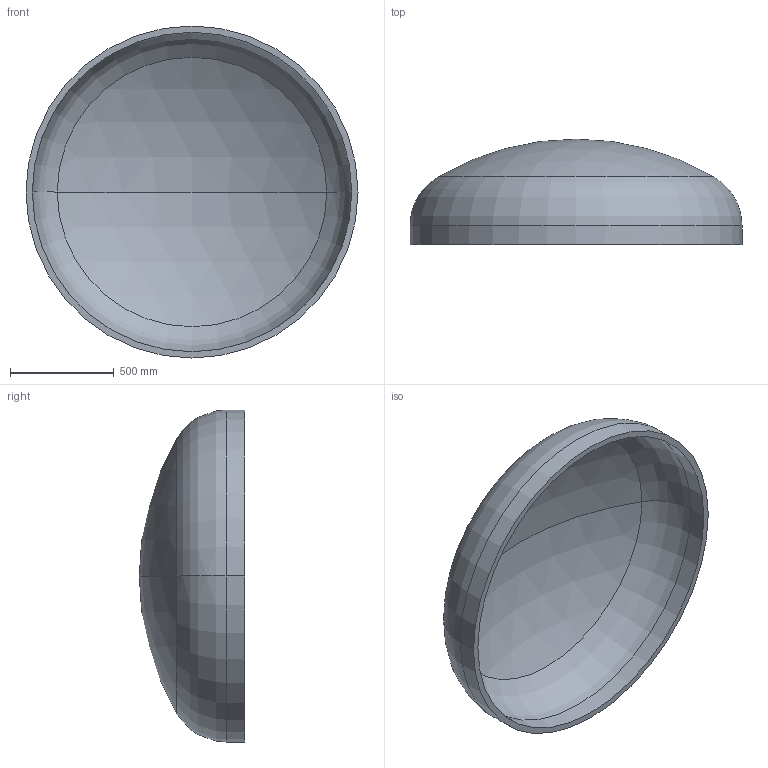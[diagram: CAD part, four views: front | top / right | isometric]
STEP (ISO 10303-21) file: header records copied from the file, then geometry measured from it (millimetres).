
FILE_DESCRIPTION (( 'STEP AP203' ), '1' );
FILE_NAME ('DIN 28013 Korbbogenform_-_Boden DIN 28013 - 1600 x 90 - I - s=30.step', '2016-07-01T11:11:51', ( '' ), ( '' ), 'SwSTEP 2.0', 'SolidWorks 2013', '' );
FILE_SCHEMA (( 'CONFIG_CONTROL_DESIGN' ));
Length unit declared in the file: millimetre
Products named in the file (1): DIN 28013 Korbbogenform_-_Boden DIN 28013 - 1600 x 90 - I - s=30
Bounding box: 1600 x 508.04 x 1600 mm (x, y, z)
Volume: 94727143.3 mm3; surface area: 6464994.8 mm2
Topology: 1 solids, 1 shells, 13 faces, 24 edges, 14 vertices
Faces by surface type: torus 4, cylinder 4, sphere 4, plane 1
Entity records: 407 total; most frequent: DIRECTION 72, CARTESIAN_POINT 52, ORIENTED_EDGE 48, AXIS2_PLACEMENT_3D 34, EDGE_CURVE 24, CIRCLE 20, VERTEX_POINT 14, EDGE_LOOP 14
